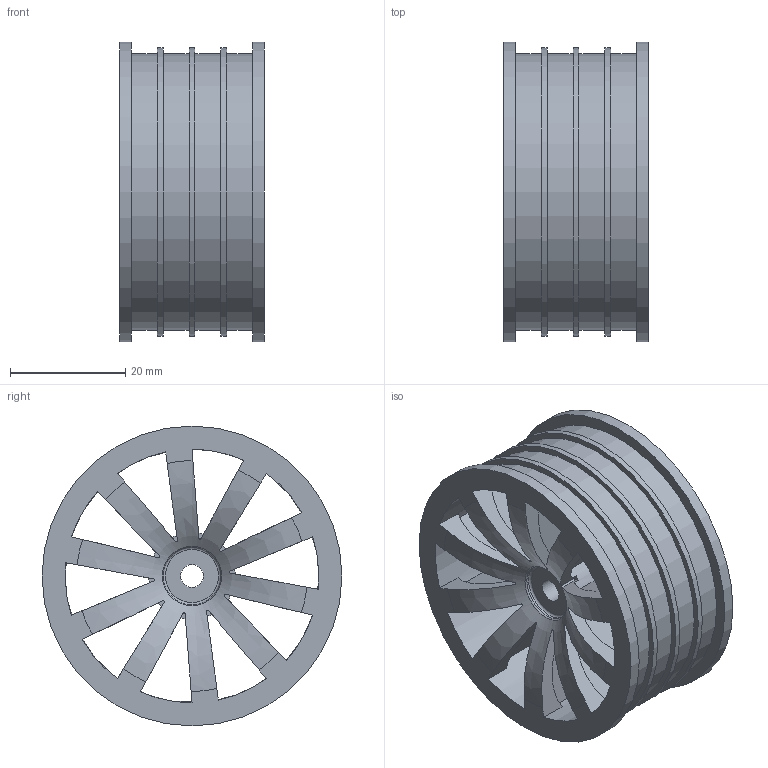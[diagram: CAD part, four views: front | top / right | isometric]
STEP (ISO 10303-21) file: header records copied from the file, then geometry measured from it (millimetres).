
FILE_DESCRIPTION(/* description */ ('STEP AP242 Edition 2','CAx-IF Rec.Pracs.---Representation and Presentation of Product Manufacturing Information (PMI)---4.0---2014-10-13','CAx-IF Rec.Pracs.---3D Tessellated Geometry---0.4---2014-09-14','2;1','CAx-IF Rec.Pracs.---User Defined Attributes---1.5---2016-08-15'),/* implementation_level */ '2;1');
FILE_NAME(/* name */ 'Assem2h - Rim',/* time_stamp */ '2025-12-01T14:50:28Z',/* author */ (''),/* organization */ (''),/* preprocessor_version */ 'ST-DEVELOPER v20',/* originating_system */ 'ONSHAPE BY PTC INC, 1.207',/* authorisation */ ' ');
FILE_SCHEMA (('AP242_MANAGED_MODEL_BASED_3D_ENGINEERING_MIM_LF { 1 0 10303 442 3 1 4 }'));
Length unit declared in the file: metre
Products named in the file (1): Rim
Bounding box: 25 x 52 x 52 mm (x, y, z)
Volume: 13500.6 mm3; surface area: 15508.3 mm2
Topology: 1 solids, 1 shells, 126 faces, 394 edges, 261 vertices
Faces by surface type: plane 79, cylinder 23, bspline 20, torus 3, cone 1
Full cylindrical faces by diameter (mm): 4 x1, 10 x1, 15 x1, 44 x1, 48 x4, 50 x3, 52 x2
Entity records: 4876 total; most frequent: CARTESIAN_POINT 1489, ORIENTED_EDGE 750, DIRECTION 646, EDGE_CURVE 375, VERTEX_POINT 259, AXIS2_PLACEMENT_3D 234, LINE 178, VECTOR 178
